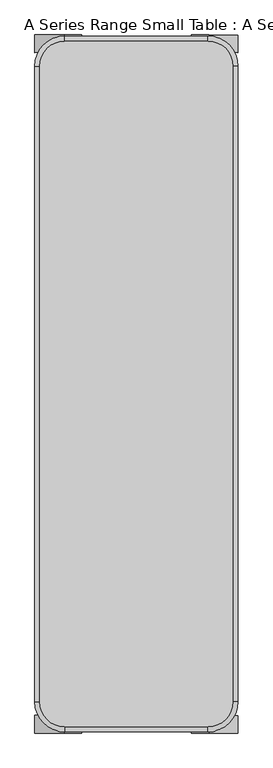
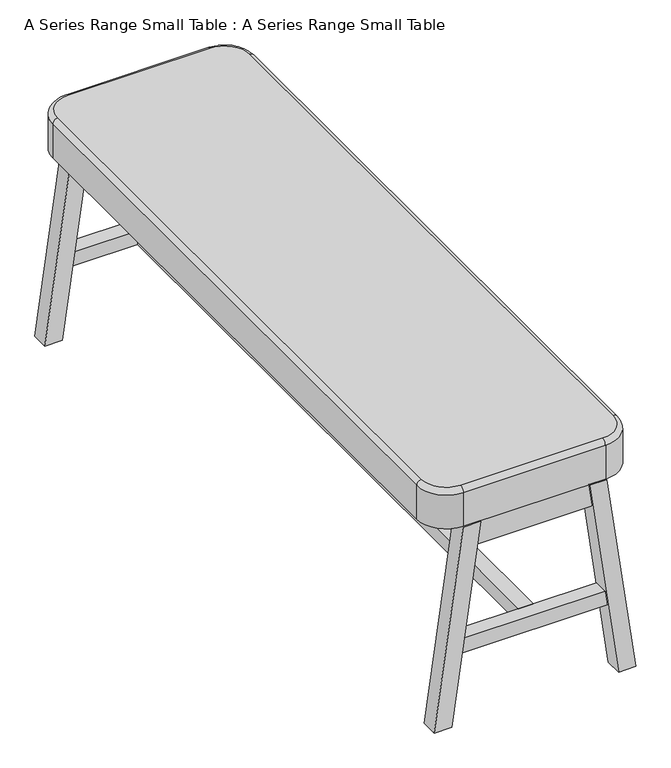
"""IFC4 building model written with IfcOpenShell, lengths in millimetres: furniture geometry, A Series Range Small Table : A Series Range Small Table."""

from ifc_helpers import new_model, si_unit, point, frame, origin, place, context, project, spatial, polyline, circle_curve, ellipse_curve, trimmed, outline, extrude, faceted_brep, source, transform, mapped, element, save
from ifc_brep_helpers import plane_surface, cylinder_surface, revolved_surface, advanced_brep


def a_series_range_small_table_a_series_range_small_table_46e69600(model_context):
    return source(origin(), model_context, "Body", "SolidModel", [
        faceted_brep([(-145.5, 700.1, 420.0), (-145.5, 664.9, 420.0), (-110.3, 664.9, 420.0), (-110.3, 700.1, 420.0), (-204.0, 700.1, 0.0), (-168.8, 700.1, 0.0), (-168.8, 664.9, 0.0), (-204.0, 664.9, 0.0)], [[[0, 1, 2, 3]], [[4, 5, 6, 7]], [[1, 0, 4, 7]], [[2, 1, 7, 6]], [[3, 2, 6, 5]], [[0, 3, 5, 4]]]),
        faceted_brep([(168.8, 700.0, 0.0), (204.0, 700.0, 0.0), (204.0, 664.8, 0.0), (168.8, 664.8, 0.0), (110.3, 664.9, 420.0), (110.3, 700.1, 420.0), (145.5, 664.9, 420.0), (145.5, 700.1, 420.0)], [[[0, 1, 2, 3]], [[4, 5, 0, 3]], [[6, 4, 3, 2]], [[7, 6, 2, 1]], [[5, 7, 1, 0]], [[5, 4, 6, 7]]]),
        faceted_brep([(-145.5, -664.9, 420.0), (-145.5, -700.1, 420.0), (-110.3, -700.1, 420.0), (-110.3, -664.9, 420.0), (-204.0, -664.9, 0.0), (-168.8, -664.9, 0.0), (-168.8, -700.1, 0.0), (-204.0, -700.1, 0.0)], [[[0, 1, 2, 3]], [[4, 5, 6, 7]], [[1, 0, 4, 7]], [[2, 1, 7, 6]], [[3, 2, 6, 5]], [[0, 3, 5, 4]]]),
        faceted_brep([(168.8, -665.0, 0.0), (204.0, -665.0, 0.0), (204.0, -700.2, 0.0), (168.8, -700.2, 0.0), (110.3, -700.1, 420.0), (110.3, -664.9, 420.0), (145.5, -700.1, 420.0), (145.5, -664.9, 420.0)], [[[0, 1, 2, 3]], [[4, 5, 0, 3]], [[6, 4, 3, 2]], [[7, 6, 2, 1]], [[5, 7, 1, 0]], [[5, 4, 6, 7]]]),
        extrude(outline(polyline([(15.0, -667.4), (-15.0, -667.4), (-15.0, 667.4), (15.0, 667.4), (15.0, -667.4)])), frame((0.0, 0.0, 150.0), z_axis=(0.0, 0.0, 1.0), x_axis=(1.0, 0.0, 0.0)), (0.0, 0.0, 1.0), 30.0),
        advanced_brep(
        [(143.9728494, -687.6, 502.0), (194.0271506, -637.5456988, 502.0), (194.0271506, 637.5456988, 502.0), (143.9728494, 687.6, 502.0), (-143.9728494, 687.6, 502.0), (-193.9728494, 637.6, 502.0), (-193.9728494, -637.6, 502.0), (-143.9728494, -687.6, 502.0), (-203.9728494, -637.6, 420.0), (-203.9728494, 637.6, 420.0), (-143.9728494, 697.6, 420.0), (143.9728494, 697.6, 420.0), (204.0271506, 637.5456988, 420.0), (204.0271506, -637.5456988, 420.0), (143.9728494, -697.6, 420.0), (-143.9728494, -697.6, 420.0), (-143.9728494, -697.6, 492.0000136), (-203.9728494, -637.6, 492.0), (143.9728494, -697.6, 492.0000137), (204.0271506, -637.5456988, 492.0000137), (204.0271506, 637.5456988, 492.0), (143.9728494, 697.6, 492.0000136), (-143.9728494, 697.6, 492.0), (-203.9728494, 637.6, 492.0000137)],
        [
            (0, 1, circle_curve(frame((143.9728494, -637.5456988, 502.0), z_axis=(0.0, 0.0, 1.0), x_axis=(0.0, -1.0, 0.0)), 50.0543012)),
            (1, 2),
            (2, 3, circle_curve(frame((143.9728494, 637.5456988, 502.0), z_axis=(0.0, 0.0, 1.0), x_axis=(1.0, 0.0, 0.0)), 50.0543012)),
            (3, 4),
            (4, 5, circle_curve(frame((-143.9728494, 637.6, 502.0), z_axis=(0.0, 0.0, 1.0), x_axis=(0.0, 1.0, 0.0)), 50.0)),
            (5, 6),
            (6, 7, circle_curve(frame((-143.9728494, -637.6, 502.0), z_axis=(0.0, 0.0, 1.0), x_axis=(-1.0, 0.0, 0.0)), 50.0)),
            (7, 0),
            (8, 9),
            (9, 10, circle_curve(frame((-143.9728494, 637.6, 420.0), z_axis=(0.0, 0.0, -1.0), x_axis=(-1.0, 0.0, 0.0)), 60.0)),
            (10, 11),
            (11, 12, circle_curve(frame((143.9728494, 637.5456988, 420.0), z_axis=(0.0, 0.0, -1.0), x_axis=(-1.0, 0.0, 0.0)), 60.0543012)),
            (12, 13),
            (13, 14, circle_curve(frame((143.9728494, -637.5456988, 420.0), z_axis=(0.0, 0.0, -1.0), x_axis=(-1.0, 0.0, 0.0)), 60.0543012)),
            (14, 15),
            (15, 8, circle_curve(frame((-143.9728494, -637.6, 420.0), z_axis=(0.0, 0.0, -1.0), x_axis=(-1.0, 0.0, 0.0)), 60.0)),
            (15, 16),
            (16, 17, circle_curve(frame((-143.9728494, -637.6, 492.0), z_axis=(0.0, 0.0, -1.0), x_axis=(-1.0, 0.0, 0.0)), 60.0)),
            (17, 8),
            (14, 18),
            (18, 16),
            (13, 19),
            (19, 18, circle_curve(frame((143.9728494, -637.5456988, 492.0), z_axis=(0.0, 0.0, -1.0), x_axis=(-1.0, 0.0, 0.0)), 60.0543012)),
            (12, 20),
            (20, 19),
            (11, 21),
            (21, 20, circle_curve(frame((143.9728494, 637.5456988, 492.0), z_axis=(0.0, 0.0, -1.0), x_axis=(-1.0, 0.0, 0.0)), 60.0543012)),
            (10, 22),
            (22, 21),
            (9, 23),
            (23, 22, circle_curve(frame((-143.9728494, 637.6, 492.0), z_axis=(0.0, 0.0, -1.0), x_axis=(-1.0, 0.0, 0.0)), 60.0)),
            (17, 23),
            (19, 1, circle_curve(frame((194.0271506, -637.5456988, 492.0), z_axis=(0.0, -1.0, 0.0), x_axis=(0.0, 0.0, -1.0)), 10.0)),
            (0, 18, circle_curve(frame((143.9728494, -687.6, 492.0), z_axis=(1.0, 0.0, 0.0), x_axis=(0.0, 0.0, -1.0)), 10.0)),
            (20, 2, circle_curve(frame((194.0271506, 637.5456988, 492.0), z_axis=(0.0, -1.0, 0.0), x_axis=(0.0, 0.0, -1.0)), 10.0)),
            (21, 3, circle_curve(frame((143.9728494, 687.6, 492.0), z_axis=(1.0, 0.0, 0.0), x_axis=(0.0, 0.0, -1.0)), 10.0)),
            (22, 4, circle_curve(frame((-143.9728494, 687.6, 492.0), z_axis=(1.0, 0.0, 0.0), x_axis=(0.0, 0.0, -1.0)), 10.0)),
            (23, 5, circle_curve(frame((-193.9728494, 637.6, 492.0), z_axis=(0.0, 1.0, 0.0), x_axis=(0.0, 0.0, -1.0)), 10.0)),
            (17, 6, circle_curve(frame((-193.9728494, -637.6, 492.0), z_axis=(0.0, 1.0, 0.0), x_axis=(0.0, 0.0, -1.0)), 10.0)),
            (16, 7, circle_curve(frame((-143.9728494, -687.6, 492.0), z_axis=(-1.0, 0.0, 0.0), x_axis=(0.0, 0.0, -1.0)), 10.0)),
        ],
        [
            plane_surface(frame((-203.9728494, -637.6, 502.0), z_axis=(0.0, 0.0, 1.0), x_axis=(0.0, -1.0, 0.0))),
            plane_surface(frame((-203.9728494, -637.6, 420.0), z_axis=(0.0, 0.0, -1.0), x_axis=(0.0, 1.0, 0.0))),
            cylinder_surface(frame((-143.9728494, -637.6, 420.0), z_axis=(0.0, 0.0, 1.0), x_axis=(-1.0, 0.0, 0.0)), 60.0),
            plane_surface(frame((-143.9728494, -697.6, 502.0), z_axis=(0.0, -1.0, 0.0), x_axis=(0.0, 0.0, -1.0))),
            cylinder_surface(frame((143.9728494, -637.5456988, 420.0), z_axis=(0.0, 0.0, 1.0), x_axis=(-1.0, 0.0, 0.0)), 60.0543012),
            plane_surface(frame((204.0271506, -637.5456988, 502.0), z_axis=(1.0, 0.0, 0.0), x_axis=(0.0, 0.0, -1.0))),
            cylinder_surface(frame((143.9728494, 637.5456988, 420.0), z_axis=(0.0, 0.0, 1.0), x_axis=(-1.0, 0.0, 0.0)), 60.0543012),
            plane_surface(frame((143.9728494, 697.6, 502.0), z_axis=(0.0, 1.0, 0.0), x_axis=(0.0, 0.0, -1.0))),
            cylinder_surface(frame((-143.9728494, 637.6, 420.0), z_axis=(0.0, 0.0, 1.0), x_axis=(-1.0, 0.0, 0.0)), 60.0),
            plane_surface(frame((-203.9728494, 637.6, 502.0), z_axis=(-1.0, 0.0, 0.0), x_axis=(0.0, 0.0, -1.0))),
            revolved_surface(trimmed(ellipse_curve(frame((143.9728494, -687.6, 492.0), z_axis=(-1.0, 0.0, 0.0), x_axis=(0.0, 0.0, -1.0)), 10.0, 10.0), [point((143.9728494, -697.6, 492.0))], [point((143.9728494, -687.6, 502.0))], True, "CARTESIAN"), (143.9728494, -637.5456988, 502.0), (0.0, 0.0, 1.0)),
            cylinder_surface(frame((194.0271506, -637.5456988, 492.0), z_axis=(0.0, 1.0, 0.0), x_axis=(0.0, 0.0, -1.0)), 10.0),
            revolved_surface(trimmed(ellipse_curve(frame((194.0271506, 637.5456988, 492.0), z_axis=(0.0, -1.0, 0.0), x_axis=(0.0, 0.0, -1.0)), 10.0, 10.0), [point((204.0271506, 637.5456988, 492.0))], [point((194.0271506, 637.5456988, 502.0))], True, "CARTESIAN"), (143.9728494, 637.5456988, 502.0), (0.0, 0.0, 1.0)),
            cylinder_surface(frame((143.9728494, 687.6, 492.0), z_axis=(-1.0, 0.0, 0.0), x_axis=(0.0, 0.0, -1.0)), 10.0),
            revolved_surface(trimmed(ellipse_curve(frame((-143.9728494, 687.6, 492.0), z_axis=(1.0, 0.0, 0.0), x_axis=(0.0, 0.0, -1.0)), 10.0, 10.0), [point((-143.9728494, 697.6, 492.0))], [point((-143.9728494, 687.6, 502.0))], True, "CARTESIAN"), (-143.9728494, 637.6, 502.0), (0.0, 0.0, 1.0)),
            cylinder_surface(frame((-193.9728494, 637.6, 492.0), z_axis=(0.0, -1.0, 0.0), x_axis=(0.0, 0.0, -1.0)), 10.0),
            revolved_surface(trimmed(ellipse_curve(frame((-193.9728494, -637.6, 492.0), z_axis=(0.0, 1.0, 0.0), x_axis=(0.0, 0.0, -1.0)), 10.0, 10.0), [point((-203.9728494, -637.6, 492.0))], [point((-193.9728494, -637.6, 502.0))], True, "CARTESIAN"), (-143.9728494, -637.6, 502.0), (0.0, 0.0, 1.0)),
            cylinder_surface(frame((-143.9728494, -687.6, 492.0), z_axis=(1.0, 0.0, 0.0), x_axis=(0.0, 0.0, -1.0)), 10.0),
        ],
        [
            (0, [[1, 2, 3, 4, 5, 6, 7, 8]]),
            (1, [[9, 10, 11, 12, 13, 14, 15, 16]]),
            (2, [[-16, 17, 18, 19]]),
            (3, [[-15, 20, 21, -17]]),
            (4, [[-14, 22, 23, -20]]),
            (5, [[-13, 24, 25, -22]]),
            (6, [[-12, 26, 27, -24]]),
            (7, [[-11, 28, 29, -26]]),
            (8, [[-10, 30, 31, -28]]),
            (9, [[-9, -19, 32, -30]]),
            (10, [[33, -1, 34, -23]]),
            (11, [[-33, -25, 35, -2]]),
            (12, [[-35, -27, 36, -3]]),
            (13, [[-36, -29, 37, -4]]),
            (14, [[-37, -31, 38, -5]]),
            (15, [[-38, -32, 39, -6]]),
            (16, [[-39, -18, 40, -7]]),
            (17, [[-34, -8, -40, -21]]),
        ],
    ),
        extrude(outline(polyline([(83.1243369, -636.8490191), (83.1243369, -667.4), (-84.3743369, -667.4), (-84.3743369, -636.8490191), (83.1243369, -636.8490191)])), frame((0.0, 0.0, 389.5), z_axis=(0.0, 0.0, 1.0), x_axis=(1.0, 0.0, 0.0)), (0.0, 0.0, 1.0), 13.0),
        extrude(outline(polyline([(83.1243369, 667.4), (83.1243369, 632.1509809), (-84.3743369, 632.1509809), (-84.3743369, 667.4), (83.1243369, 667.4)])), frame((0.0, 0.0, 389.5), z_axis=(0.0, 0.0, 1.0), x_axis=(1.0, 0.0, 0.0)), (0.0, 0.0, 1.0), 13.0),
        extrude(outline(polyline([(69.9993369, 12.6509809), (69.9993369, -17.3490191), (-69.9993369, -17.3490191), (-69.9993369, 12.6509809), (69.9993369, 12.6509809)])), frame((0.0, 0.0, 372.0), z_axis=(0.0, 0.0, 1.0), x_axis=(1.0, 0.0, 0.0)), (0.0, 0.0, 1.0), 48.0),
        extrude(outline(polyline([(-69.9993369, -667.4), (-106.9993369, -667.4), (-106.9993369, 667.4), (-69.9993369, 667.4), (-69.9993369, -667.4)])), frame((0.0, 0.0, 372.0), z_axis=(0.0, 0.0, 1.0), x_axis=(1.0, 0.0, 0.0)), (0.0, 0.0, 1.0), 48.0),
        extrude(outline(polyline([(106.9993369, -667.4), (69.9993369, -667.4), (69.9993369, 667.4), (106.9993369, 667.4), (106.9993369, -667.4)])), frame((0.0, 0.0, 372.0), z_axis=(0.0, 0.0, 1.0), x_axis=(1.0, 0.0, 0.0)), (0.0, 0.0, 1.0), 48.0),
        extrude(outline(polyline([(180.0, 143.7285714), (180.0, -143.7285714), (150.0, -147.9071429), (150.0, 147.9071429), (180.0, 143.7285714)])), frame((0.0, -697.6, 0.0), z_axis=(0.0, 1.0, 0.0), x_axis=(0.0, 0.0, 1.0)), (0.0, 0.0, 1.0), 30.2),
        extrude(outline(polyline([(180.0, 143.7285714), (180.0, -143.7285714), (150.0, -147.9071429), (150.0, 147.9071429), (180.0, 143.7285714)])), frame((0.0, 667.4, 0.0), z_axis=(0.0, 1.0, 0.0), x_axis=(0.0, 0.0, 1.0)), (0.0, 0.0, 1.0), 30.2),
        extrude(outline(polyline([(420.0, 110.3), (420.0, -110.3), (372.0, -116.9857143), (372.0, 116.9857143), (420.0, 110.3)])), frame((0.0, 667.4, 0.0), z_axis=(0.0, 1.0, 0.0), x_axis=(0.0, 0.0, 1.0)), (0.0, 0.0, 1.0), 30.2),
        extrude(outline(polyline([(420.0, 110.3), (420.0, -110.3), (372.0, -116.9857143), (372.0, 116.9857143), (420.0, 110.3)])), frame((0.0, -697.6, 0.0), z_axis=(0.0, 1.0, 0.0), x_axis=(0.0, 0.0, 1.0)), (0.0, 0.0, 1.0), 30.2),
    ])


if __name__ == "__main__":
    model = new_model("IFC4")
    model_context = context("Model", 3, world=origin())
    ifc_project = project(units=[si_unit("LENGTHUNIT", "METRE", prefix="MILLI")], contexts=[model_context])
    site = spatial("IfcSite", under=ifc_project)
    building = spatial("IfcBuilding", under=site)
    placement = place(None, origin())
    a_series_range_small_table_a_series_range_small_table_shape = a_series_range_small_table_a_series_range_small_table_46e69600(model_context)
    element("IfcFurniture", 1, ObjectType="A Series Range Small Table : A Series Range Small Table", at=placement, inside=building, context=model_context, shape_type="MappedRepresentation", body=[
        mapped(a_series_range_small_table_a_series_range_small_table_shape, transform((0.0, 0.0, 0.0), x_axis=(1.0, 0.0, 0.0), y_axis=(0.0, 1.0, 0.0), z_axis=(0.0, 0.0, 1.0))),
    ])
    save(model, "model.ifc")
